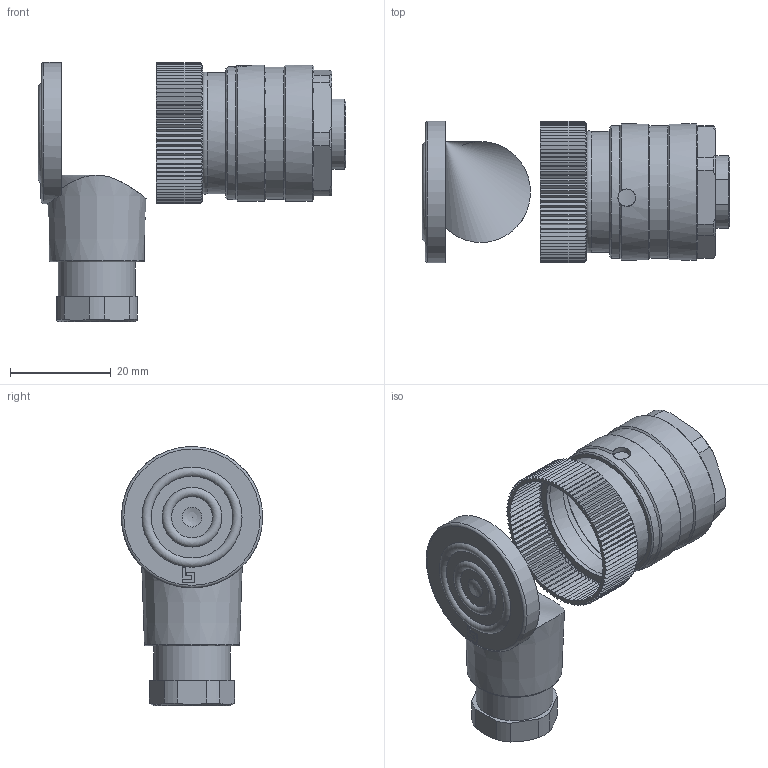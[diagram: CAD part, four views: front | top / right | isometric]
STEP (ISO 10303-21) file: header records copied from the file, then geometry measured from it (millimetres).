
FILE_DESCRIPTION(/* description */ (''),/* implementation_level */ '2;1');
FILE_NAME(/* name */ '99_2442_52_04_001_00.stp',/* time_stamp */ '2016-07-28T09:52:45+02:00',/* author */ (''),/* organization */ (''),/* preprocessor_version */ 'ST-DEVELOPER v14',/* originating_system */ 'SIEMENS PLM Software NX 8.0',/* authorisation */ '');
FILE_SCHEMA (('AUTOMOTIVE_DESIGN { 1 0 10303 214 3 1 1 1 }'));
Length unit declared in the file: millimetre
Products named in the file (1): cerl0E14E7FE0g9d
Bounding box: 60.9 x 28 x 51.3 mm (x, y, z)
Volume: 5551.1 mm3; surface area: 9489.4 mm2
Topology: 1 solids, 2 shells, 403 faces, 933 edges, 557 vertices
Faces by surface type: plane 246, cone 110, cylinder 37, torus 9, sphere 1
Full cylindrical faces by diameter (mm): 2.55 x4, 3.4 x4, 3.5 x1, 14.3 x1, 15.2 x1, 17.4 x1, 17.8 x1, 20.498 x1, 24 x1, 24.8 x1, 26 x1, 26.3 x2, 27 x2, 28 x1
Entity records: 10991 total; most frequent: CARTESIAN_POINT 2549, ORIENTED_EDGE 1720, DIRECTION 1647, EDGE_CURVE 860, AXIS2_PLACEMENT_3D 594, VERTEX_POINT 528, EDGE_LOOP 468, LINE 459
